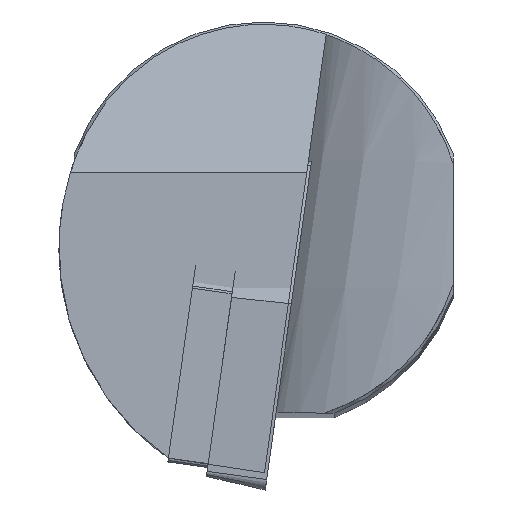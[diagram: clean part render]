
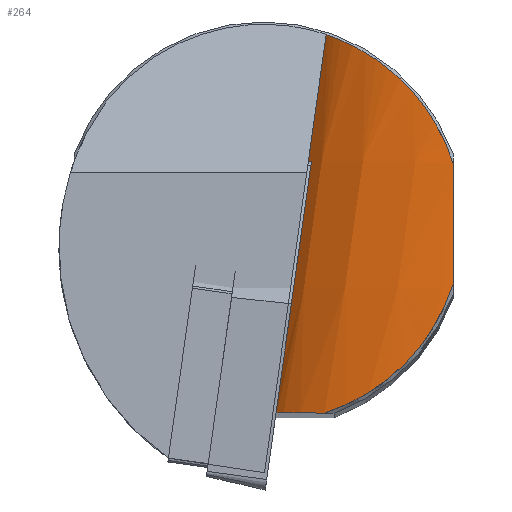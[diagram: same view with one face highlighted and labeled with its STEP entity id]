
A CAD part, top view. The second image highlights one B-rep face of the part: STEP entity #264.
In plain terms, the highlighted free-form (B-spline) face has degree [3, 3] with [4, 15] control points.
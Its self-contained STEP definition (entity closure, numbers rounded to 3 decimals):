
#128=B_SPLINE_SURFACE_WITH_KNOTS('',3,3,((#1206,#1207,#1208,#1209,#1210,
#1211,#1212,#1213,#1214,#1215,#1216,#1217,#1218,#1219,#1220),(#1221,#1222,
#1223,#1224,#1225,#1226,#1227,#1228,#1229,#1230,#1231,#1232,#1233,#1234,
#1235),(#1236,#1237,#1238,#1239,#1240,#1241,#1242,#1243,#1244,#1245,#1246,
#1247,#1248,#1249,#1250),(#1251,#1252,#1253,#1254,#1255,#1256,#1257,#1258,
#1259,#1260,#1261,#1262,#1263,#1264,#1265)),.UNSPECIFIED.,.F.,.F.,.F.,(4,
4),(4,1,2,1,2,1,1,2,1,4),(0.,1.),(0.,0.187,0.25,0.373,
0.5,0.56,0.707,0.75,0.853,1.),.UNSPECIFIED.);
#158=LINE('',#1166,#212);
#212=VECTOR('',#949,1.);
#264=ADVANCED_FACE('',(#314),#128,.T.);
#314=FACE_OUTER_BOUND('',#350,.T.);
#350=EDGE_LOOP('',(#455,#456,#457,#458,#459,#460));
#455=ORIENTED_EDGE('',*,*,#731,.T.);
#456=ORIENTED_EDGE('',*,*,#733,.T.);
#457=ORIENTED_EDGE('',*,*,#734,.F.);
#458=ORIENTED_EDGE('',*,*,#735,.T.);
#459=ORIENTED_EDGE('',*,*,#736,.F.);
#460=ORIENTED_EDGE('',*,*,#737,.T.);
#654=VERTEX_POINT('',#1165);
#655=VERTEX_POINT('',#1167);
#656=VERTEX_POINT('',#1174);
#657=VERTEX_POINT('',#1183);
#658=VERTEX_POINT('',#1190);
#659=VERTEX_POINT('',#1195);
#731=EDGE_CURVE('',#655,#654,#158,.T.);
#733=EDGE_CURVE('',#654,#656,#822,.T.);
#734=EDGE_CURVE('',#657,#656,#823,.T.);
#735=EDGE_CURVE('',#657,#658,#824,.T.);
#736=EDGE_CURVE('',#659,#658,#825,.T.);
#737=EDGE_CURVE('',#659,#655,#826,.T.);
#822=B_SPLINE_CURVE_WITH_KNOTS('',3,(#1170,#1171,#1172,#1173),.UNSPECIFIED.,
 .F.,.F.,(4,4),(0.,1.),.UNSPECIFIED.);
#823=B_SPLINE_CURVE_WITH_KNOTS('',3,(#1175,#1176,#1177,#1178,#1179,#1180,
#1181,#1182),.UNSPECIFIED.,.F.,.F.,(4,1,2,1,4),(0.,0.257,0.54,
0.686,1.),.UNSPECIFIED.);
#824=B_SPLINE_CURVE_WITH_KNOTS('',3,(#1184,#1185,#1186,#1187,#1188,#1189),
 .UNSPECIFIED.,.F.,.F.,(4,2,4),(0.,0.5,1.),.UNSPECIFIED.);
#825=B_SPLINE_CURVE_WITH_KNOTS('',3,(#1191,#1192,#1193,#1194),.UNSPECIFIED.,
 .F.,.F.,(4,4),(0.,1.),.UNSPECIFIED.);
#826=B_SPLINE_CURVE_WITH_KNOTS('',3,(#1196,#1197,#1198,#1199,#1200,#1201,
#1202,#1203,#1204,#1205),.UNSPECIFIED.,.F.,.F.,(4,2,2,2,4),(0.,0.25,0.5,
0.75,1.),.UNSPECIFIED.);
#949=DIRECTION('',(-0.139,-0.99,0.));
#1165=CARTESIAN_POINT('',(0.991,-13.214,-18.774));
#1166=CARTESIAN_POINT('',(-0.09,-20.9,-18.774));
#1167=CARTESIAN_POINT('',(4.949,14.952,-18.774));
#1170=CARTESIAN_POINT('',(0.991,-13.214,-18.774));
#1171=CARTESIAN_POINT('',(0.907,-13.808,-19.243));
#1172=CARTESIAN_POINT('',(0.837,-14.403,-19.711));
#1173=CARTESIAN_POINT('',(0.78,-15.,-20.179));
#1174=CARTESIAN_POINT('',(0.78,-15.,-20.179));
#1175=CARTESIAN_POINT('',(4.802,-15.,-32.435));
#1176=CARTESIAN_POINT('',(4.175,-15.,-31.474));
#1177=CARTESIAN_POINT('',(3.001,-15.,-29.364));
#1178=CARTESIAN_POINT('',(2.146,-15.,-27.133));
#1179=CARTESIAN_POINT('',(1.61,-15.,-25.345));
#1180=CARTESIAN_POINT('',(1.113,-15.,-23.415));
#1181=CARTESIAN_POINT('',(0.853,-15.,-21.48));
#1182=CARTESIAN_POINT('',(0.78,-15.,-20.179));
#1183=CARTESIAN_POINT('',(4.802,-15.,-32.435));
#1184=CARTESIAN_POINT('',(4.802,-15.,-32.435));
#1185=CARTESIAN_POINT('',(6.44,-14.476,-34.833));
#1186=CARTESIAN_POINT('',(8.532,-13.487,-36.835));
#1187=CARTESIAN_POINT('',(12.381,-10.07,-39.565));
#1188=CARTESIAN_POINT('',(14.11,-7.583,-40.331));
#1189=CARTESIAN_POINT('',(15.,-4.802,-40.609));
#1190=CARTESIAN_POINT('',(15.,-4.802,-40.609));
#1191=CARTESIAN_POINT('',(15.,4.802,-39.8));
#1192=CARTESIAN_POINT('',(15.,1.602,-40.089));
#1193=CARTESIAN_POINT('',(15.,-1.599,-40.358));
#1194=CARTESIAN_POINT('',(15.,-4.802,-40.609));
#1195=CARTESIAN_POINT('',(15.,4.802,-39.8));
#1196=CARTESIAN_POINT('',(15.,4.802,-39.8));
#1197=CARTESIAN_POINT('',(14.326,6.908,-39.177));
#1198=CARTESIAN_POINT('',(13.22,8.767,-38.199));
#1199=CARTESIAN_POINT('',(10.777,11.639,-35.473));
#1200=CARTESIAN_POINT('',(9.49,12.634,-33.764));
#1201=CARTESIAN_POINT('',(7.338,13.994,-29.943));
#1202=CARTESIAN_POINT('',(6.447,14.384,-27.813));
#1203=CARTESIAN_POINT('',(5.261,14.859,-23.398));
#1204=CARTESIAN_POINT('',(4.949,14.952,-21.093));
#1205=CARTESIAN_POINT('',(4.949,14.952,-18.774));
#1206=CARTESIAN_POINT('',(5.675,20.115,-18.774));
#1207=CARTESIAN_POINT('',(5.675,20.115,-20.52));
#1208=CARTESIAN_POINT('',(5.925,20.115,-22.937));
#1209=CARTESIAN_POINT('',(6.545,20.115,-25.345));
#1210=CARTESIAN_POINT('',(7.081,20.115,-27.133));
#1211=CARTESIAN_POINT('',(7.989,20.115,-29.501));
#1212=CARTESIAN_POINT('',(9.256,20.115,-31.732));
#1213=CARTESIAN_POINT('',(10.328,20.115,-33.314));
#1214=CARTESIAN_POINT('',(11.581,20.115,-35.019));
#1215=CARTESIAN_POINT('',(13.343,20.115,-36.873));
#1216=CARTESIAN_POINT('',(14.807,20.115,-38.098));
#1217=CARTESIAN_POINT('',(15.956,20.115,-39.009));
#1218=CARTESIAN_POINT('',(17.993,20.115,-40.422));
#1219=CARTESIAN_POINT('',(20.15,20.115,-41.492));
#1220=CARTESIAN_POINT('',(21.425,20.115,-42.));
#1221=CARTESIAN_POINT('',(3.753,6.443,-18.774));
#1222=CARTESIAN_POINT('',(3.753,6.443,-20.52));
#1223=CARTESIAN_POINT('',(4.003,6.443,-22.937));
#1224=CARTESIAN_POINT('',(4.624,6.443,-25.345));
#1225=CARTESIAN_POINT('',(5.16,6.443,-27.133));
#1226=CARTESIAN_POINT('',(6.067,6.443,-29.501));
#1227=CARTESIAN_POINT('',(7.334,6.443,-31.732));
#1228=CARTESIAN_POINT('',(8.407,6.443,-33.314));
#1229=CARTESIAN_POINT('',(9.66,6.443,-35.019));
#1230=CARTESIAN_POINT('',(11.421,6.443,-36.873));
#1231=CARTESIAN_POINT('',(12.885,6.443,-38.098));
#1232=CARTESIAN_POINT('',(14.035,6.443,-39.009));
#1233=CARTESIAN_POINT('',(16.071,6.443,-40.422));
#1234=CARTESIAN_POINT('',(18.229,6.443,-41.492));
#1235=CARTESIAN_POINT('',(19.503,6.443,-42.));
#1236=CARTESIAN_POINT('',(1.832,-7.228,-18.774));
#1237=CARTESIAN_POINT('',(1.832,-7.228,-20.52));
#1238=CARTESIAN_POINT('',(2.082,-7.228,-22.937));
#1239=CARTESIAN_POINT('',(2.702,-7.228,-25.345));
#1240=CARTESIAN_POINT('',(3.238,-7.228,-27.133));
#1241=CARTESIAN_POINT('',(4.146,-7.228,-29.501));
#1242=CARTESIAN_POINT('',(5.413,-7.228,-31.732));
#1243=CARTESIAN_POINT('',(6.485,-7.228,-33.314));
#1244=CARTESIAN_POINT('',(7.738,-7.228,-35.019));
#1245=CARTESIAN_POINT('',(9.5,-7.228,-36.873));
#1246=CARTESIAN_POINT('',(10.964,-7.228,-38.098));
#1247=CARTESIAN_POINT('',(12.113,-7.228,-39.009));
#1248=CARTESIAN_POINT('',(14.15,-7.228,-40.422));
#1249=CARTESIAN_POINT('',(16.307,-7.228,-41.492));
#1250=CARTESIAN_POINT('',(17.582,-7.228,-42.));
#1251=CARTESIAN_POINT('',(-0.09,-20.9,-18.774));
#1252=CARTESIAN_POINT('',(-0.09,-20.9,-20.52));
#1253=CARTESIAN_POINT('',(0.16,-20.9,-22.937));
#1254=CARTESIAN_POINT('',(0.781,-20.9,-25.345));
#1255=CARTESIAN_POINT('',(1.317,-20.9,-27.133));
#1256=CARTESIAN_POINT('',(2.224,-20.9,-29.501));
#1257=CARTESIAN_POINT('',(3.492,-20.9,-31.732));
#1258=CARTESIAN_POINT('',(4.564,-20.9,-33.314));
#1259=CARTESIAN_POINT('',(5.817,-20.9,-35.019));
#1260=CARTESIAN_POINT('',(7.579,-20.9,-36.873));
#1261=CARTESIAN_POINT('',(9.042,-20.9,-38.098));
#1262=CARTESIAN_POINT('',(10.192,-20.9,-39.009));
#1263=CARTESIAN_POINT('',(12.229,-20.9,-40.422));
#1264=CARTESIAN_POINT('',(14.386,-20.9,-41.492));
#1265=CARTESIAN_POINT('',(15.66,-20.9,-42.));
